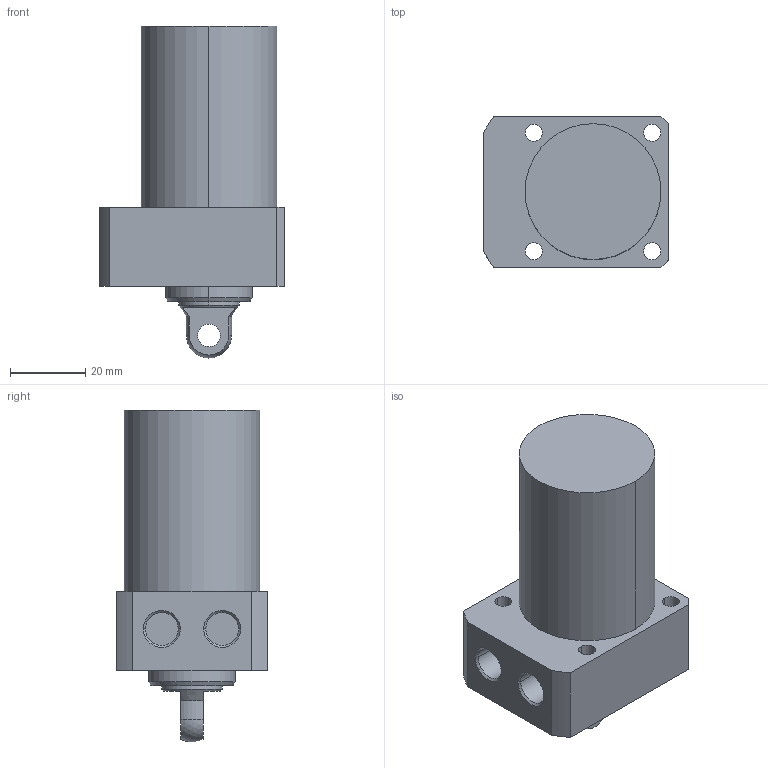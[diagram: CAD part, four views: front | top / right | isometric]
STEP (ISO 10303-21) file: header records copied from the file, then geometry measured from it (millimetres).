
FILE_DESCRIPTION((' '),'2;1');
FILE_NAME( 'TLLR-036CP-040.STEP.stp', '2025-10-24T16:35:49', (' '), ('--- Datakit www.datakit.com---'), ' Datakit CrossCadWare V2024.1 Dec 21 2023', 'Mastercam 2025', ' ');
FILE_SCHEMA(('AUTOMOTIVE_DESIGN { 1 0 10303 214 1 1 1 1 }'));
Length unit declared in the file: millimetre
Products named in the file (1): TLLR-036CP-040
Bounding box: 49 x 40 x 87.97 mm (x, y, z)
Volume: 89403.2 mm3; surface area: 15452.5 mm2
Topology: 1 solids, 1 shells, 55 faces, 157 edges, 111 vertices
Faces by surface type: cylinder 28, plane 18, cone 8, sphere 1
Entity records: 1924 total; most frequent: DIRECTION 360, CARTESIAN_POINT 336, ORIENTED_EDGE 314, EDGE_CURVE 157, AXIS2_PLACEMENT_3D 151, VERTEX_POINT 111, CIRCLE 95, EDGE_LOOP 72
